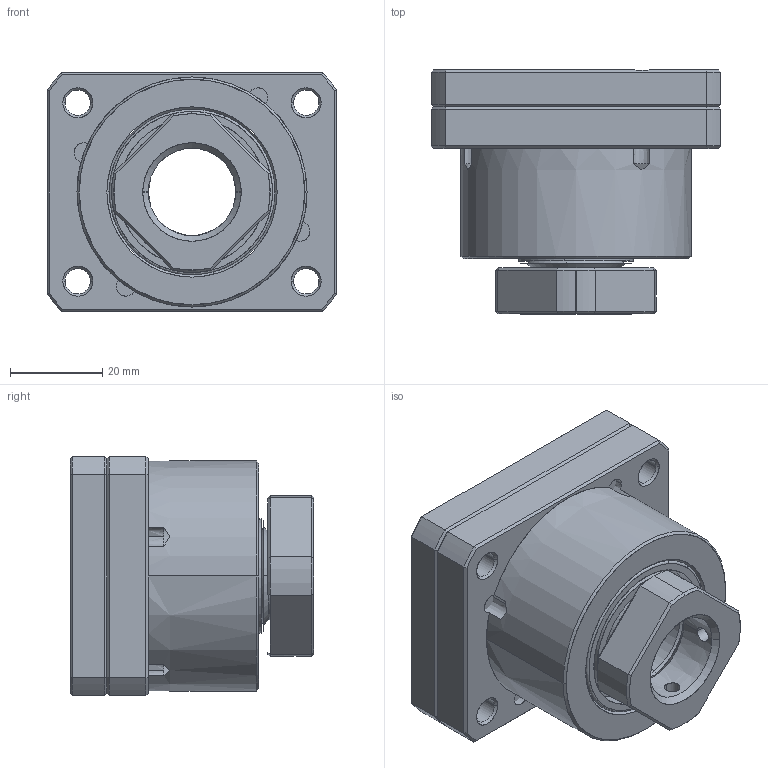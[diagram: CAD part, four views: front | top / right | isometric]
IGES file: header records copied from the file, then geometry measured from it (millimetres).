
Start section: SolidWorks IGES file using analytic representation for surfaces
Global section: file name: C:\Users\117\Desktop\FKA20L ｲﾕｦXｹﾏB.IGS; native system: SolidWorks 2018; preprocessor: SolidWorks 2018; author: 117; date: 210929.105738; units: millimetre
Bounding box: 63 x 53 x 52 mm (x, y, z)
Surface area: 25057.3 mm2 (no closed solid volume)
Topology: 0 solids, 0 shells, 243 faces, 2978 edges, 2978 vertices
Faces by surface type: revolution 147, bspline 96
